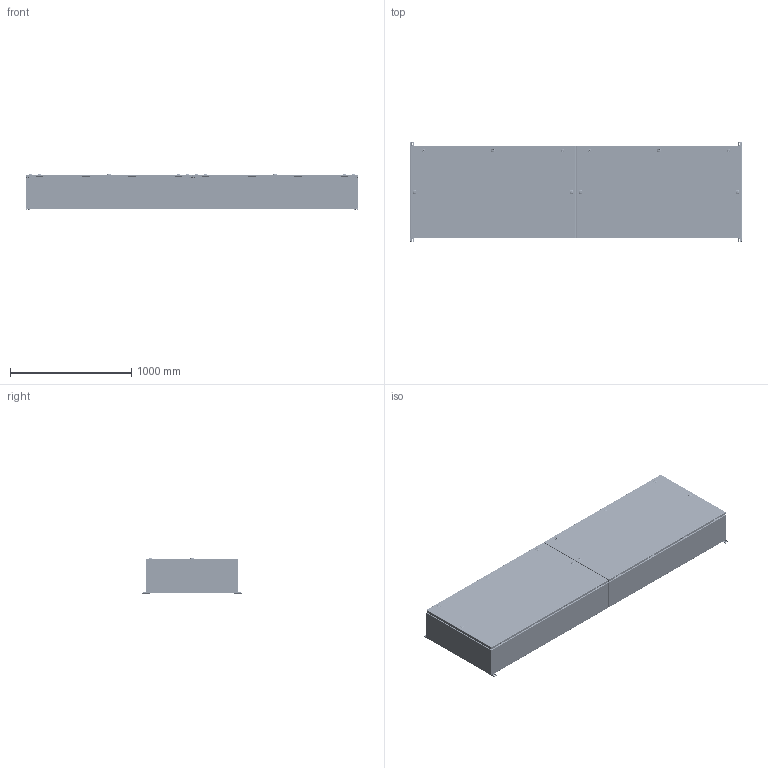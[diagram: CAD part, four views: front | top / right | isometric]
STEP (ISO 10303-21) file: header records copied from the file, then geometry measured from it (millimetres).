
FILE_DESCRIPTION(/* description */ ('1412BTCU 1000A - 4 Wires x 108" Assembly'),/* implementation_level */ '2;1');
FILE_NAME(/* name */ 'C:\Vault_Workspace\Inventor_Dwg\BoxCad\Result\1412BTCU091004DT\e-mail\3D\1412BTCU091004DT.stp',/* time_stamp */ '2022-10-20T20:03:56-04:00',/* author */ ('BoxCad'),/* organization */ (''),/* preprocessor_version */ 'ST-DEVELOPER v18.1',/* originating_system */ 'Autodesk Inventor 2020',/* authorisation */ '');
FILE_SCHEMA (('AUTOMOTIVE_DESIGN { 1 0 10303 214 3 1 1 }'));
Products named in the file (69): 1412BTCU091004DT; 1412BTCU091004DTB; 1412BTCU091004DTB-P; 1412BTCU091004DTE-P; STK-Q-16005; iLogic_STK-G-00701; STK-Q-00260; STK-Q-07220-1; STK-Q-07220-A; STK-Q-07220-B; 1412BTCU091004DTC; 1412BTCU091004DTC-P; 1412BTCU091004DTF-P; 1412BTCU091004DTG; STK-Q-16080; STK-K-09800; STK-Q-33014; STK-Q-90398; STK-Q-40095; STK-Q-63410; STK-S-00100; STK-P-02400S; STK-A-880SCQ4-SL-1; STK-A-880SCQ4-SL-2; STK-A-880SCQ4-SL-3; STK-A-880SCQ4-SL-4; STK-A-880SCQ4-SL-5; STK-A-880SCQ4-SL-6; STK-Q-78140; STK-A-880SCQ4-SL-7; STK-A-880SCQ4-SL-8; STK-A-880SCQ4-SL-9; STK-A-880SCQ4-SL-10; STK-Q-78110; STK-Q-78120; STK-Q-78145; STK-Q-03200; STK-Q-78125; STK-Q-78141; STK-Q-90390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
Assembly tree (244 placements, depth 4):
  1412BTCU091004DT
    1412BTCU091004DTB
      1412BTCU091004DTB-P
      1412BTCU091004DTE-P
      STK-Q-16080  x2
      STK-Q-16005  x10
      iLogic_STK-G-00701
      STK-Q-00260  x10
      STK-Q-07220-1  x10
        STK-Q-07220-A
        STK-Q-07220-B
      STK-S-00100
      STK-P-02400S
    1412BTCU091004DTC
      1412BTCU091004DTC-P
      1412BTCU091004DTF-P
      1412BTCU091004DTG  x2
      STK-Q-16080  x2
      STK-K-09800  x8
        STK-Q-33014
        STK-Q-90398
        STK-Q-40095
        STK-Q-63410
      STK-S-00100
      STK-P-02400S
      STK-A-880SCQ4-SL-1
        STK-Q-78110
        STK-Q-78120
        STK-Q-78145
        STK-Q-03200
        STK-Q-78125
        STK-Q-78141
        STK-Q-90390
        STK-Q-78160
      STK-A-880SCQ4-SL-2
        STK-Q-78110
        STK-Q-78120
        STK-Q-78145
        STK-Q-03200
        STK-Q-78125
        STK-Q-78141
        STK-Q-90390
        STK-Q-78160
      STK-A-880SCQ4-SL-3
        STK-Q-78110
        STK-Q-78120
        STK-Q-78145
        STK-Q-03200
        STK-Q-78125
        STK-Q-78141
        STK-Q-90390
        STK-Q-78160
      STK-A-880SCQ4-SL-4
        STK-Q-78110
        STK-Q-78120
        STK-Q-78145
        STK-Q-03200
        STK-Q-78125
        STK-Q-78141
        STK-Q-90390
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Bounding box: 2743.2 x 819.15 x 294.2 mm (x, y, z)
Volume: 20685263.1 mm3; surface area: 18195643.9 mm2
Topology: 362 solids, 362 shells, 50367 faces, 130670 edges, 80964 vertices
Faces by surface type: plane 18731, bspline 13054, cylinder 12611, torus 4009, sphere 1186, cone 776
Full cylindrical faces by diameter (mm): 0.75 x14, 0.762 x14, 1 x32, 1.1 x32, 3.2 x16, 4.5 x64, 4.521 x32, 4.85 x64, 4.95 x16, 5 x10, 5.1 x148, 5.105 x56, 5.6 x8, 5.9 x278, 6.65 x26, 6.8 x10, 6.85 x96, 7.3 x8, 7.366 x8, 7.8 x656, 7.9 x10, 8 x64, 8.25 x32, 8.382 x8, 8.6 x12, 9.5 x10, 9.6 x10, 9.7 x48, 9.906 x4, 10 x10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
Entity records: 231364 total; most frequent: CARTESIAN_POINT 87367, ORIENTED_EDGE 31254, DIRECTION 26462, EDGE_CURVE 15627, VERTEX_POINT 9937, AXIS2_PLACEMENT_3D 9238, LINE 7986, VECTOR 7986
